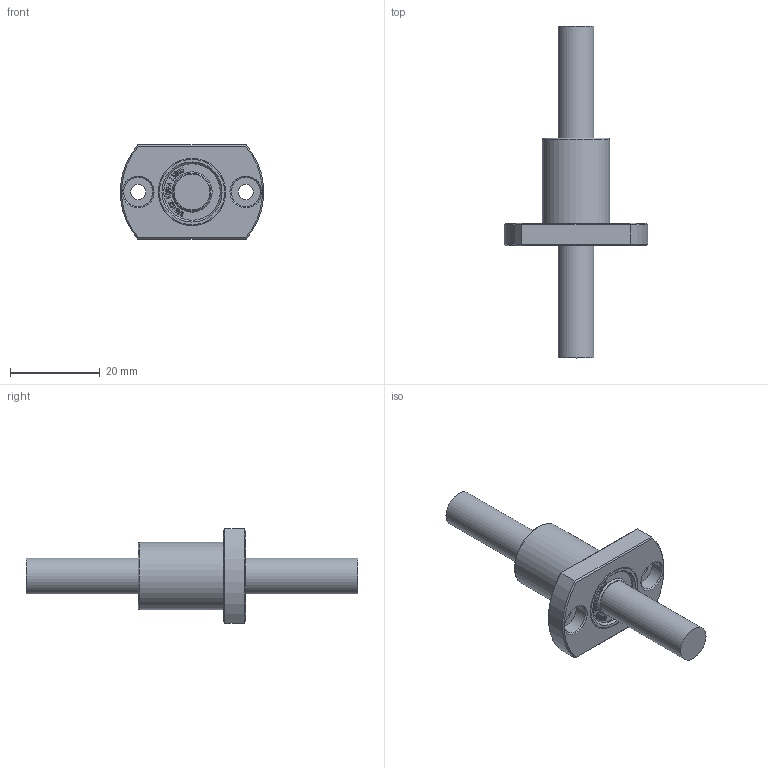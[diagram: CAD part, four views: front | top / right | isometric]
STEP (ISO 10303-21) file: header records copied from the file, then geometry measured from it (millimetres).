
FILE_DESCRIPTION(/* description */ (''),/* implementation_level */ '2;1');
FILE_NAME(/* name */ 'W:\(01) 2024년 홈페이지 CAD파일 최신화\LMH\IPT\LMH8UU.stp',/* time_stamp */ '2025-01-23T09:34:58+09:00',/* author */ ('서우현'),/* organization */ (''),/* preprocessor_version */ 'ST-DEVELOPER v17.2',/* originating_system */ 'Autodesk Inventor 2019',/* authorisation */ '');
FILE_SCHEMA (('AUTOMOTIVE_DESIGN { 1 0 10303 214 3 1 1 }'));
Length unit declared in the file: millimetre
Products named in the file (1): LM5
Bounding box: 31.9 x 74 x 21 mm (x, y, z)
Volume: 8610.6 mm3; surface area: 4039.7 mm2
Topology: 1 solids, 1 shells, 830 faces, 2330 edges, 1556 vertices
Faces by surface type: bspline 580, plane 224, cone 12, cylinder 12, torus 2
Full cylindrical faces by diameter (mm): 3.4 x2, 6.5 x2, 8 x2, 12.6 x2, 15 x2
Entity records: 28228 total; most frequent: CARTESIAN_POINT 9953, ORIENTED_EDGE 4660, EDGE_CURVE 2330, DIRECTION 1730, VERTEX_POINT 1556, B_SPLINE_CURVE_WITH_KNOTS 1160, LINE 1096, VECTOR 1096
